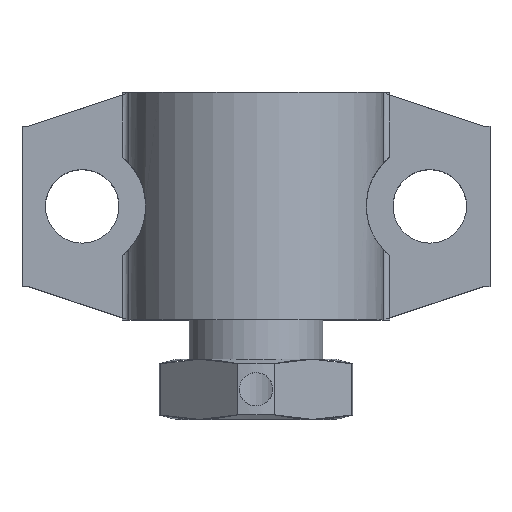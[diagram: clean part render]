
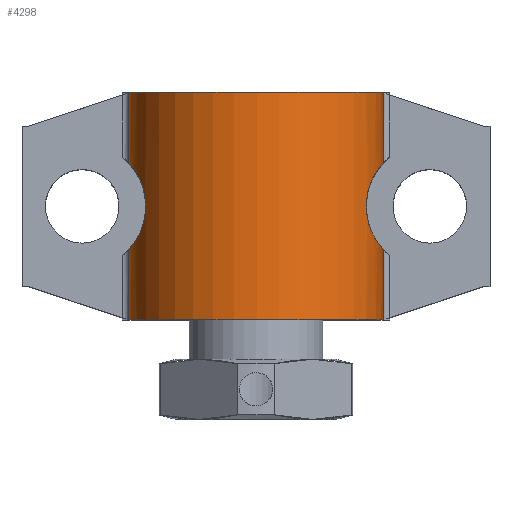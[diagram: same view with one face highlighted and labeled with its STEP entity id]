
A CAD part, top view. The second image highlights one B-rep face of the part: STEP entity #4298.
In plain terms, the highlighted cylindrical face has radius 9.5 mm (diameter 19 mm), a partial arc.
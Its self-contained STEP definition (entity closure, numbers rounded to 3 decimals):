
#4159=CARTESIAN_POINT('',(182.753,155.1,-23.019));
#4160=VERTEX_POINT('',#4159);
#4161=CARTESIAN_POINT('',(182.753,161.522,-23.019));
#4162=VERTEX_POINT('',#4161);
#4163=CARTESIAN_POINT('',(182.753,155.1,-23.019));
#4164=CARTESIAN_POINT('',(182.753,155.1,-22.993));
#4165=CARTESIAN_POINT('',(182.753,155.1,-22.968));
#4166=CARTESIAN_POINT('',(182.753,155.1,-22.549));
#4167=CARTESIAN_POINT('',(182.728,155.126,-22.142));
#4168=CARTESIAN_POINT('',(182.626,155.243,-21.34));
#4169=CARTESIAN_POINT('',(182.549,155.334,-20.944));
#4170=CARTESIAN_POINT('',(182.357,155.59,-20.198));
#4171=CARTESIAN_POINT('',(182.242,155.756,-19.848));
#4172=CARTESIAN_POINT('',(182.003,156.178,-19.226));
#4173=CARTESIAN_POINT('',(181.879,156.432,-18.953));
#4174=CARTESIAN_POINT('',(181.733,156.847,-18.659));
#4175=CARTESIAN_POINT('',(181.697,156.963,-18.588));
#4176=CARTESIAN_POINT('',(181.631,157.211,-18.462));
#4177=CARTESIAN_POINT('',(181.601,157.343,-18.407));
#4178=CARTESIAN_POINT('',(181.553,157.615,-18.319));
#4179=CARTESIAN_POINT('',(181.534,157.755,-18.286));
#4180=CARTESIAN_POINT('',(181.509,158.036,-18.242));
#4181=CARTESIAN_POINT('',(181.503,158.176,-18.232));
#4182=CARTESIAN_POINT('',(181.503,158.446,-18.232));
#4183=CARTESIAN_POINT('',(181.509,158.586,-18.242));
#4184=CARTESIAN_POINT('',(181.534,158.867,-18.286));
#4185=CARTESIAN_POINT('',(181.553,159.007,-18.319));
#4186=CARTESIAN_POINT('',(181.601,159.279,-18.407));
#4187=CARTESIAN_POINT('',(181.631,159.411,-18.462));
#4188=CARTESIAN_POINT('',(181.697,159.659,-18.588));
#4189=CARTESIAN_POINT('',(181.733,159.775,-18.659));
#4190=CARTESIAN_POINT('',(181.879,160.19,-18.953));
#4191=CARTESIAN_POINT('',(182.003,160.444,-19.226));
#4192=CARTESIAN_POINT('',(182.242,160.866,-19.848));
#4193=CARTESIAN_POINT('',(182.357,161.032,-20.198));
#4194=CARTESIAN_POINT('',(182.549,161.288,-20.944));
#4195=CARTESIAN_POINT('',(182.626,161.379,-21.34));
#4196=CARTESIAN_POINT('',(182.728,161.496,-22.142));
#4197=CARTESIAN_POINT('',(182.753,161.522,-22.549));
#4198=CARTESIAN_POINT('',(182.753,161.522,-22.968));
#4199=CARTESIAN_POINT('',(182.753,161.522,-22.993));
#4200=CARTESIAN_POINT('',(182.753,161.522,-23.019));
#4201=B_SPLINE_CURVE_WITH_KNOTS('',3,(#4163,#4164,#4165,#4166,#4167,#4168,#4169,#4170,#4171,#4172,#4173,#4174,#4175,#4176,#4177,#4178,#4179,#4180,#4181,#4182,#4183,#4184,#4185,#4186,#4187,#4188,#4189,#4190,#4191,#4192,#4193,#4194,#4195,#4196,#4197,#4198,#4199,#4200),.UNSPECIFIED.,.F.,.F.,(4,2,2,2,2,2,2,2,2,2,2,2,2,2,2,2,2,2,4),(0.94,1.016,2.196,3.376,4.556,5.736,6.141,6.547,6.953,7.358,7.764,8.17,8.575,8.981,10.161,11.341,12.521,13.701,13.777),.UNSPECIFIED.);
#4202=EDGE_CURVE('',#4160,#4162,#4201,.T.);
#4203=ORIENTED_EDGE('',*,*,#4202,.T.);
#4204=CARTESIAN_POINT('',(182.753,166.811,-23.019));
#4205=VERTEX_POINT('',#4204);
#4206=CARTESIAN_POINT('',(182.753,158.311,-23.019));
#4207=DIRECTION('',(0.,-1.,0.));
#4208=VECTOR('',#4207,1.);
#4209=LINE('',#4206,#4208);
#4210=EDGE_CURVE('',#4205,#4162,#4209,.T.);
#4211=ORIENTED_EDGE('',*,*,#4210,.F.);
#4212=CARTESIAN_POINT('',(163.753,166.811,-22.942));
#4213=VERTEX_POINT('',#4212);
#4214=CARTESIAN_POINT('',(173.253,166.811,-22.942));
#4215=DIRECTION('',(0.,-1.,0.));
#4216=DIRECTION('',(0.,0.,1.));
#4217=AXIS2_PLACEMENT_3D('',#4214,#4215,#4216);
#4218=CIRCLE('',#4217,9.5);
#4219=EDGE_CURVE('',#4205,#4213,#4218,.T.);
#4220=ORIENTED_EDGE('',*,*,#4219,.T.);
#4221=CARTESIAN_POINT('',(163.753,161.522,-22.942));
#4222=VERTEX_POINT('',#4221);
#4223=CARTESIAN_POINT('',(163.753,158.311,-22.942));
#4224=DIRECTION('',(0.,1.,0.));
#4225=VECTOR('',#4224,1.);
#4226=LINE('',#4223,#4225);
#4227=EDGE_CURVE('',#4222,#4213,#4226,.T.);
#4228=ORIENTED_EDGE('',*,*,#4227,.F.);
#4229=CARTESIAN_POINT('',(163.753,155.1,-22.942));
#4230=VERTEX_POINT('',#4229);
#4231=CARTESIAN_POINT('',(163.753,161.522,-22.942));
#4232=CARTESIAN_POINT('',(163.753,161.522,-22.549));
#4233=CARTESIAN_POINT('',(163.779,161.496,-22.142));
#4234=CARTESIAN_POINT('',(163.881,161.379,-21.34));
#4235=CARTESIAN_POINT('',(163.958,161.288,-20.944));
#4236=CARTESIAN_POINT('',(164.15,161.032,-20.198));
#4237=CARTESIAN_POINT('',(164.265,160.866,-19.848));
#4238=CARTESIAN_POINT('',(164.504,160.444,-19.226));
#4239=CARTESIAN_POINT('',(164.628,160.19,-18.953));
#4240=CARTESIAN_POINT('',(164.773,159.775,-18.659));
#4241=CARTESIAN_POINT('',(164.81,159.659,-18.588));
#4242=CARTESIAN_POINT('',(164.876,159.411,-18.462));
#4243=CARTESIAN_POINT('',(164.906,159.279,-18.407));
#4244=CARTESIAN_POINT('',(164.954,159.007,-18.319));
#4245=CARTESIAN_POINT('',(164.973,158.867,-18.286));
#4246=CARTESIAN_POINT('',(164.998,158.586,-18.242));
#4247=CARTESIAN_POINT('',(165.003,158.446,-18.232));
#4248=CARTESIAN_POINT('',(165.003,158.176,-18.232));
#4249=CARTESIAN_POINT('',(164.998,158.036,-18.242));
#4250=CARTESIAN_POINT('',(164.973,157.755,-18.286));
#4251=CARTESIAN_POINT('',(164.954,157.615,-18.319));
#4252=CARTESIAN_POINT('',(164.906,157.343,-18.407));
#4253=CARTESIAN_POINT('',(164.876,157.211,-18.462));
#4254=CARTESIAN_POINT('',(164.81,156.963,-18.588));
#4255=CARTESIAN_POINT('',(164.773,156.847,-18.659));
#4256=CARTESIAN_POINT('',(164.628,156.432,-18.953));
#4257=CARTESIAN_POINT('',(164.504,156.178,-19.226));
#4258=CARTESIAN_POINT('',(164.265,155.756,-19.848));
#4259=CARTESIAN_POINT('',(164.15,155.59,-20.198));
#4260=CARTESIAN_POINT('',(163.958,155.334,-20.944));
#4261=CARTESIAN_POINT('',(163.881,155.243,-21.34));
#4262=CARTESIAN_POINT('',(163.779,155.126,-22.142));
#4263=CARTESIAN_POINT('',(163.753,155.1,-22.549));
#4264=CARTESIAN_POINT('',(163.753,155.1,-22.942));
#4265=B_SPLINE_CURVE_WITH_KNOTS('',3,(#4231,#4232,#4233,#4234,#4235,#4236,#4237,#4238,#4239,#4240,#4241,#4242,#4243,#4244,#4245,#4246,#4247,#4248,#4249,#4250,#4251,#4252,#4253,#4254,#4255,#4256,#4257,#4258,#4259,#4260,#4261,#4262,#4263,#4264),.UNSPECIFIED.,.F.,.F.,(4,2,2,2,2,2,2,2,2,2,2,2,2,2,2,2,4),(1.016,2.196,3.376,4.556,5.736,6.141,6.547,6.953,7.358,7.764,8.17,8.575,8.981,10.161,11.341,12.521,13.701),.UNSPECIFIED.);
#4266=EDGE_CURVE('',#4222,#4230,#4265,.T.);
#4267=ORIENTED_EDGE('',*,*,#4266,.T.);
#4268=CARTESIAN_POINT('',(163.753,149.811,-22.942));
#4269=VERTEX_POINT('',#4268);
#4270=CARTESIAN_POINT('',(163.753,158.311,-22.942));
#4271=DIRECTION('',(0.,1.,0.));
#4272=VECTOR('',#4271,1.);
#4273=LINE('',#4270,#4272);
#4274=EDGE_CURVE('',#4269,#4230,#4273,.T.);
#4275=ORIENTED_EDGE('',*,*,#4274,.F.);
#4276=CARTESIAN_POINT('',(182.753,149.811,-23.019));
#4277=VERTEX_POINT('',#4276);
#4278=CARTESIAN_POINT('',(173.253,149.811,-22.942));
#4279=DIRECTION('',(0.,-1.,0.));
#4280=DIRECTION('',(0.,0.,1.));
#4281=AXIS2_PLACEMENT_3D('',#4278,#4279,#4280);
#4282=CIRCLE('',#4281,9.5);
#4283=EDGE_CURVE('',#4277,#4269,#4282,.T.);
#4284=ORIENTED_EDGE('',*,*,#4283,.F.);
#4285=CARTESIAN_POINT('',(182.753,158.311,-23.019));
#4286=DIRECTION('',(0.,-1.,0.));
#4287=VECTOR('',#4286,1.);
#4288=LINE('',#4285,#4287);
#4289=EDGE_CURVE('',#4160,#4277,#4288,.T.);
#4290=ORIENTED_EDGE('',*,*,#4289,.F.);
#4291=EDGE_LOOP('',(#4203,#4211,#4220,#4228,#4267,#4275,#4284,#4290));
#4292=FACE_OUTER_BOUND('',#4291,.T.);
#4293=CARTESIAN_POINT('',(173.253,158.311,-22.942));
#4294=DIRECTION('',(0.,-1.,0.));
#4295=DIRECTION('',(-0.004,0.,-1.));
#4296=AXIS2_PLACEMENT_3D('',#4293,#4294,#4295);
#4297=CYLINDRICAL_SURFACE('',#4296,9.5);
#4298=ADVANCED_FACE('',(#4292),#4297,.T.);
